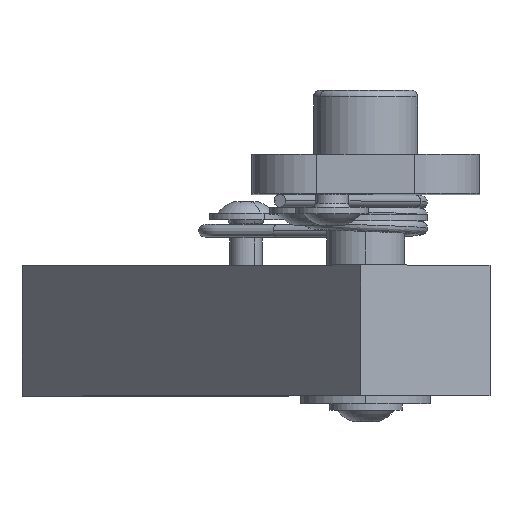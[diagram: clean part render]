
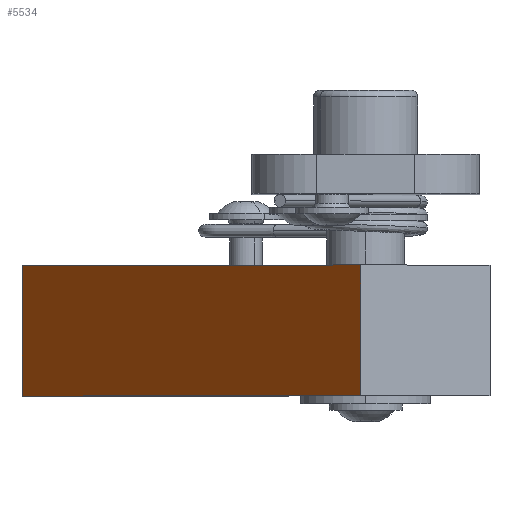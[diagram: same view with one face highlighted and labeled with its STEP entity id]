
A CAD part, top view. The second image highlights one B-rep face of the part: STEP entity #5534.
In plain terms, the highlighted planar face has unit normal (-0.791, 0, 0.612).
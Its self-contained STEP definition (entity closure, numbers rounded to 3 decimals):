
#419 = VERTEX_POINT ( 'NONE', #8772 ) ;
#872 = DIRECTION ( 'NONE',  ( 0.791, 0., -0.612 ) ) ;
#1104 = EDGE_CURVE ( 'NONE', #7860, #3434, #4240, .T. ) ;
#1667 = LINE ( 'NONE', #4045, #3555 ) ;
#1764 = CARTESIAN_POINT ( 'NONE',  ( -0.717, -36.8, -39.988 ) ) ;
#1910 = ORIENTED_EDGE ( 'NONE', *, *, #5875, .F. ) ;
#2064 = ORIENTED_EDGE ( 'NONE', *, *, #10343, .F. ) ;
#2760 = DIRECTION ( 'NONE',  ( 0.612, 0., 0.791 ) ) ;
#3108 = CARTESIAN_POINT ( 'NONE',  ( -52.697, -16.8, -107.242 ) ) ;
#3281 = FACE_OUTER_BOUND ( 'NONE', #9458, .T. ) ;
#3434 = VERTEX_POINT ( 'NONE', #5140 ) ;
#3441 = PLANE ( 'NONE',  #5094 ) ;
#3497 = DIRECTION ( 'NONE',  ( 0.612, 0., 0.791 ) ) ;
#3555 = VECTOR ( 'NONE', #3497, 1000. ) ;
#4045 = CARTESIAN_POINT ( 'NONE',  ( -52.697, -36.8, -107.242 ) ) ;
#4240 = LINE ( 'NONE', #1764, #7728 ) ;
#4970 = DIRECTION ( 'NONE',  ( 0., 1., 0. ) ) ;
#5041 = LINE ( 'NONE', #6785, #7395 ) ;
#5094 = AXIS2_PLACEMENT_3D ( 'NONE', #6603, #872, #9826 ) ;
#5112 = VERTEX_POINT ( 'NONE', #3108 ) ;
#5140 = CARTESIAN_POINT ( 'NONE',  ( -0.717, -16.8, -39.988 ) ) ;
#5534 = ADVANCED_FACE ( 'NONE', ( #3281 ), #3441, .F. ) ;
#5875 = EDGE_CURVE ( 'NONE', #5112, #3434, #6763, .T. ) ;
#6266 = VECTOR ( 'NONE', #2760, 1000. ) ;
#6441 = ORIENTED_EDGE ( 'NONE', *, *, #6807, .T. ) ;
#6554 = CARTESIAN_POINT ( 'NONE',  ( -52.697, -16.8, -107.242 ) ) ;
#6603 = CARTESIAN_POINT ( 'NONE',  ( -52.697, -36.8, -107.242 ) ) ;
#6763 = LINE ( 'NONE', #6554, #6266 ) ;
#6785 = CARTESIAN_POINT ( 'NONE',  ( -52.697, -36.8, -107.242 ) ) ;
#6807 = EDGE_CURVE ( 'NONE', #419, #7860, #1667, .T. ) ;
#6881 = CARTESIAN_POINT ( 'NONE',  ( -0.717, -36.8, -39.988 ) ) ;
#6968 = ORIENTED_EDGE ( 'NONE', *, *, #1104, .T. ) ;
#7395 = VECTOR ( 'NONE', #10006, 1000. ) ;
#7728 = VECTOR ( 'NONE', #4970, 1000. ) ;
#7860 = VERTEX_POINT ( 'NONE', #6881 ) ;
#8772 = CARTESIAN_POINT ( 'NONE',  ( -52.697, -36.8, -107.242 ) ) ;
#9458 = EDGE_LOOP ( 'NONE', ( #6968, #1910, #2064, #6441 ) ) ;
#9826 = DIRECTION ( 'NONE',  ( 0., -1., 0. ) ) ;
#10006 = DIRECTION ( 'NONE',  ( 0., 1., 0. ) ) ;
#10343 = EDGE_CURVE ( 'NONE', #419, #5112, #5041, .T. ) ;
